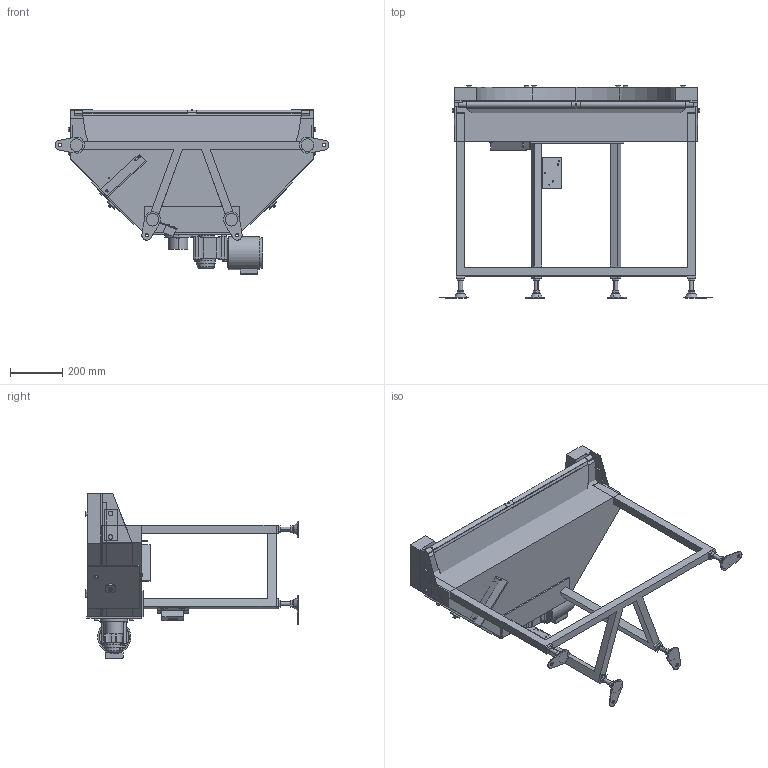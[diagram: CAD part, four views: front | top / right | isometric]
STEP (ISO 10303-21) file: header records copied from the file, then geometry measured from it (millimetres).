
FILE_DESCRIPTION (( 'STEP AP214' ), '1' );
FILE_NAME ('MMBC3-HS-310-380-180°-R-K-160.STEP', '2024-10-07T01:33:33', ( '' ), ( '' ), 'SwSTEP 2.0', 'SolidWorks 2017', '' );
FILE_SCHEMA (( 'AUTOMOTIVE_DESIGN' ));
Length unit declared in the file: millimetre
Products named in the file (1): MMBC3-HS-310-380-180°-R-K-160
Bounding box: 1046 x 810.2 x 628 mm (x, y, z)
Volume: 56797928.6 mm3; surface area: 4744084.4 mm2
Topology: 36 solids, 36 shells, 1308 faces, 3171 edges, 2064 vertices
Faces by surface type: plane 816, cylinder 366, cone 56, bspline 50, torus 20
Entity records: 41935 total; most frequent: CARTESIAN_POINT 10265, DIRECTION 6459, ORIENTED_EDGE 6326, EDGE_CURVE 3163, AXIS2_PLACEMENT_3D 2160, VECTOR 2139, LINE 2139, VERTEX_POINT 2064
